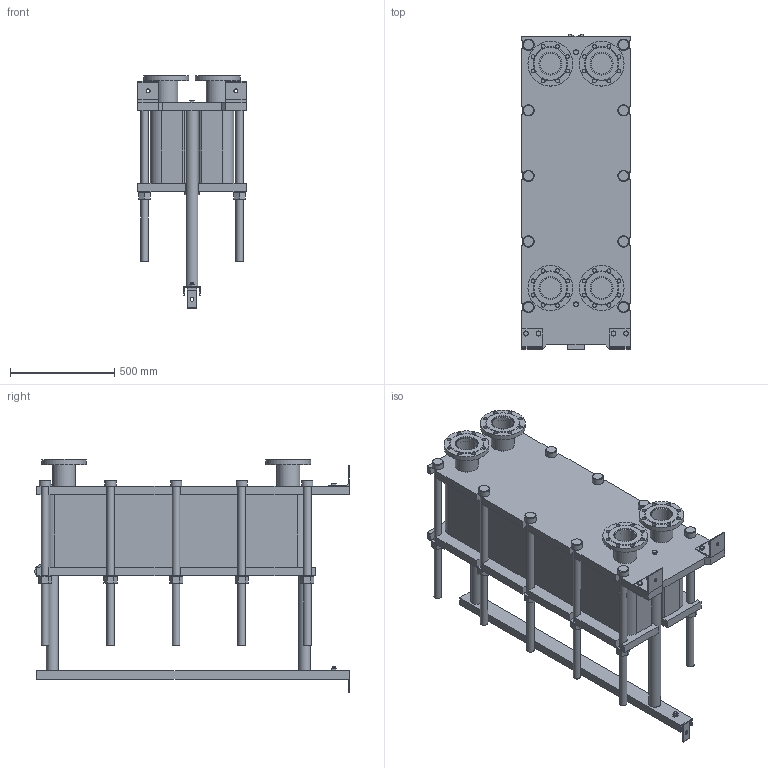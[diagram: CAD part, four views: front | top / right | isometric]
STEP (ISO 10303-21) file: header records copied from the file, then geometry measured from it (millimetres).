
FILE_DESCRIPTION(/* description */ (''),/* implementation_level */ '2;1');
FILE_NAME(/* name */ 'C:\Users\zhuro\Desktop\ENCO\TO\ЭН-04\ЭН-0,5-04-101-1.stp',/* time_stamp */ '2022-06-06T10:54:05+03:00',/* author */ ('zhuro'),/* organization */ (''),/* preprocessor_version */ 'ST-DEVELOPER v18.1',/* originating_system */ 'Autodesk Inventor 2022',/* authorisation */ '');
FILE_SCHEMA (('AUTOMOTIVE_DESIGN { 1 0 10303 214 3 1 1 }'));
Length unit declared in the file: millimetre
Products named in the file (1): ЭН-0,5-04-101-1
Bounding box: 520 x 1510 x 1120.5 mm (x, y, z)
Volume: 245399682.3 mm3; surface area: 8377252 mm2
Topology: 45 solids, 45 shells, 668 faces, 1611 edges, 1048 vertices
Faces by surface type: plane 457, cylinder 166, cone 39, torus 6
Full cylindrical faces by diameter (mm): 8 x4, 10 x2, 16 x8, 18 x35, 36 x25, 40 x2, 42 x1, 45 x4, 54 x10, 57 x2, 60 x10, 68 x2, 100 x4, 110 x8, 215 x4
Entity records: 23607 total; most frequent: CARTESIAN_POINT 7348, DIRECTION 3371, ORIENTED_EDGE 3142, EDGE_CURVE 1571, AXIS2_PLACEMENT_3D 1199, VERTEX_POINT 1044, LINE 973, VECTOR 973
